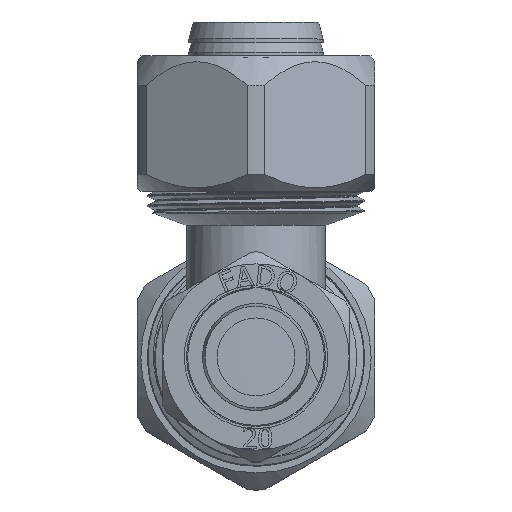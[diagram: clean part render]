
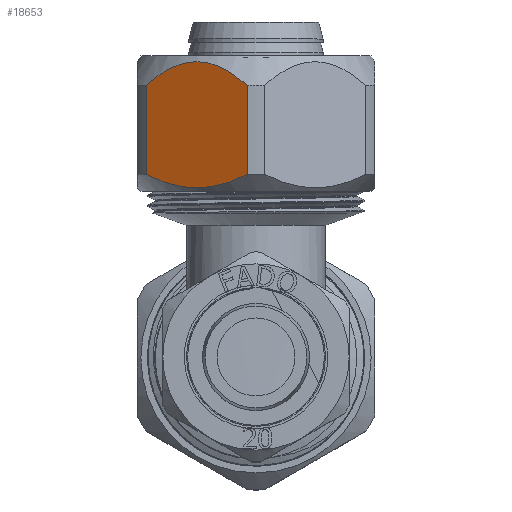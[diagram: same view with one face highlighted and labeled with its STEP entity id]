
A CAD part, top view. The second image highlights one B-rep face of the part: STEP entity #18653.
In plain terms, the highlighted planar face has unit normal (-0.5, 0, 0.866) as drawn and (-0.5, -0.866, 0) by its records, which use the part's own axes.
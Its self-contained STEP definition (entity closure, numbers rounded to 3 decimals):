
#53=(
BOUNDED_CURVE()
B_SPLINE_CURVE(2,(#37732,#37733,#37734),.UNSPECIFIED.,.F.,.F.)
B_SPLINE_CURVE_WITH_KNOTS((3,3),(0.232,2.083),
 .UNSPECIFIED.)
CURVE()
GEOMETRIC_REPRESENTATION_ITEM()
RATIONAL_B_SPLINE_CURVE((1.033,1.151,1.033))
REPRESENTATION_ITEM('')
);
#61=(
BOUNDED_CURVE()
B_SPLINE_CURVE(2,(#38973,#38974,#38975),.UNSPECIFIED.,.F.,.F.)
B_SPLINE_CURVE_WITH_KNOTS((3,3),(0.411,2.497),
 .UNSPECIFIED.)
CURVE()
GEOMETRIC_REPRESENTATION_ITEM()
RATIONAL_B_SPLINE_CURVE((1.057,1.178,1.057))
REPRESENTATION_ITEM('')
);
#2124=PLANE('',#19904);
#2790=FACE_OUTER_BOUND('',#3883,.T.);
#3883=EDGE_LOOP('',(#13897,#13898,#13899,#13900));
#4962=LINE('',#37675,#6113);
#4965=LINE('',#37691,#6116);
#6113=VECTOR('',#21329,10.);
#6116=VECTOR('',#21344,10.);
#7852=VERTEX_POINT('',#37671);
#7854=VERTEX_POINT('',#37674);
#7859=VERTEX_POINT('',#37685);
#7861=VERTEX_POINT('',#37689);
#9963=EDGE_CURVE('',#7854,#7852,#4962,.T.);
#9971=EDGE_CURVE('',#7859,#7861,#4965,.T.);
#9989=EDGE_CURVE('',#7861,#7854,#53,.T.);
#10262=EDGE_CURVE('',#7852,#7859,#61,.T.);
#13897=ORIENTED_EDGE('',*,*,#9971,.T.);
#13898=ORIENTED_EDGE('',*,*,#9989,.T.);
#13899=ORIENTED_EDGE('',*,*,#9963,.T.);
#13900=ORIENTED_EDGE('',*,*,#10262,.T.);
#18653=ADVANCED_FACE('',(#2790),#2124,.T.);
#19904=AXIS2_PLACEMENT_3D('',#38983,#21642,#21643);
#21329=DIRECTION('',(0.,0.,1.));
#21344=DIRECTION('',(0.,0.,-1.));
#21642=DIRECTION('center_axis',(-0.5,-0.866,0.));
#21643=DIRECTION('ref_axis',(-0.866,0.5,0.));
#37671=CARTESIAN_POINT('',(-1.3,-19.457,-4.33));
#37674=CARTESIAN_POINT('',(-1.3,-19.457,-17.5));
#37675=CARTESIAN_POINT('',(-1.3,-19.457,0.));
#37685=CARTESIAN_POINT('',(-16.2,-10.854,-4.33));
#37689=CARTESIAN_POINT('',(-16.2,-10.854,-17.5));
#37691=CARTESIAN_POINT('',(-16.2,-10.854,0.));
#37732=CARTESIAN_POINT('Ctrl Pts',(-16.2,-10.854,
-17.5));
#37733=CARTESIAN_POINT('Ctrl Pts',(-8.75,-15.155,
-21.295));
#37734=CARTESIAN_POINT('Ctrl Pts',(-1.3,-19.457,-17.5));
#38973=CARTESIAN_POINT('Ctrl Pts',(-1.3,-19.457,-4.33));
#38974=CARTESIAN_POINT('Ctrl Pts',(-8.75,-15.155,
2.243));
#38975=CARTESIAN_POINT('Ctrl Pts',(-16.2,-10.854,
-4.33));
#38983=CARTESIAN_POINT('Origin',(0.,-20.207,
0.));
